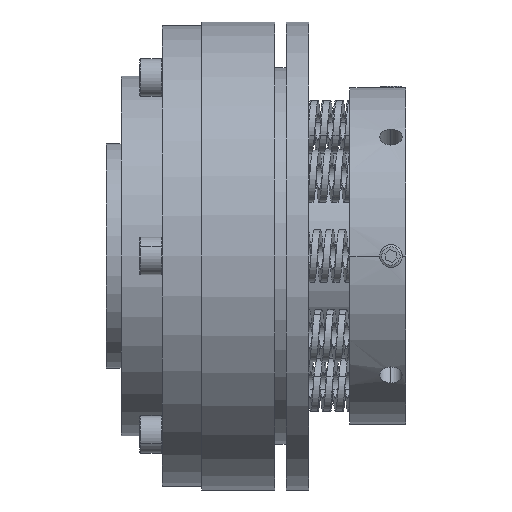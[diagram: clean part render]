
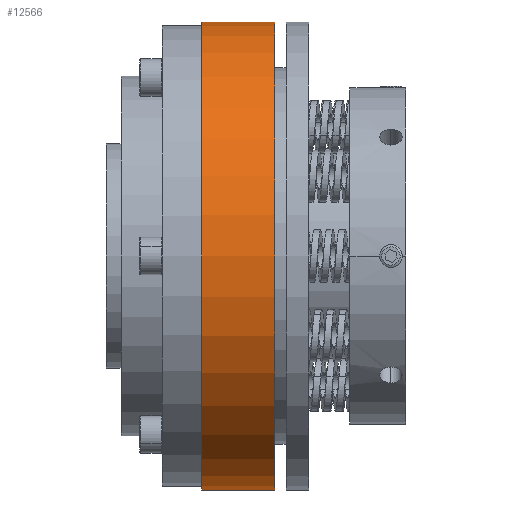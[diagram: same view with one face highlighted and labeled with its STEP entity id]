
A CAD part, front view. The second image highlights one B-rep face of the part: STEP entity #12566.
In plain terms, the highlighted cylindrical face has radius 62.5 mm (diameter 125 mm), a partial arc.
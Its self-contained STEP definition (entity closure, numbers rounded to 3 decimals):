
#3251 = DIRECTION ( 'NONE',  ( -1., 0., 0. ) ) ;
#9861 = LINE ( 'NONE', #53550, #29157 ) ;
#9894 = EDGE_LOOP ( 'NONE', ( #17232, #48754, #23257, #51134 ) ) ;
#11611 = EDGE_CURVE ( 'NONE', #52859, #42565, #32685, .T. ) ;
#12544 = CARTESIAN_POINT ( 'NONE',  ( 45., 0., 62.5 ) ) ;
#12566 = ADVANCED_FACE ( 'NONE', ( #15930 ), #70880, .T. ) ;
#15930 = FACE_OUTER_BOUND ( 'NONE', #9894, .T. ) ;
#17232 = ORIENTED_EDGE ( 'NONE', *, *, #40704, .F. ) ;
#19056 = CARTESIAN_POINT ( 'NONE',  ( 25.5, 0., 0. ) ) ;
#19481 = CARTESIAN_POINT ( 'NONE',  ( 0., 0., 0. ) ) ;
#22387 = CARTESIAN_POINT ( 'NONE',  ( 45., 0., -62.5 ) ) ;
#22598 = VERTEX_POINT ( 'NONE', #40700 ) ;
#23257 = ORIENTED_EDGE ( 'NONE', *, *, #53062, .T. ) ;
#24464 = DIRECTION ( 'NONE',  ( 0., 0., 1. ) ) ;
#25925 = DIRECTION ( 'NONE',  ( -1., 0., 0. ) ) ;
#29157 = VECTOR ( 'NONE', #29551, 1000. ) ;
#29551 = DIRECTION ( 'NONE',  ( -1., 0., 0. ) ) ;
#30706 = CIRCLE ( 'NONE', #56488, 62.5 ) ;
#32685 = CIRCLE ( 'NONE', #74171, 62.5 ) ;
#36126 = DIRECTION ( 'NONE',  ( -1., 0., 0. ) ) ;
#40276 = EDGE_CURVE ( 'NONE', #55491, #22598, #30706, .T. ) ;
#40700 = CARTESIAN_POINT ( 'NONE',  ( 25.5, 0., 62.5 ) ) ;
#40704 = EDGE_CURVE ( 'NONE', #52859, #55491, #63517, .T. ) ;
#42565 = VERTEX_POINT ( 'NONE', #12544 ) ;
#47985 = VECTOR ( 'NONE', #36126, 1000. ) ;
#48754 = ORIENTED_EDGE ( 'NONE', *, *, #11611, .T. ) ;
#51134 = ORIENTED_EDGE ( 'NONE', *, *, #40276, .F. ) ;
#52859 = VERTEX_POINT ( 'NONE', #22387 ) ;
#53062 = EDGE_CURVE ( 'NONE', #42565, #22598, #9861, .T. ) ;
#53550 = CARTESIAN_POINT ( 'NONE',  ( 0., 0., 62.5 ) ) ;
#55491 = VERTEX_POINT ( 'NONE', #65441 ) ;
#56488 = AXIS2_PLACEMENT_3D ( 'NONE', #19056, #59540, #24464 ) ;
#59540 = DIRECTION ( 'NONE',  ( -1., 0., 0. ) ) ;
#60484 = DIRECTION ( 'NONE',  ( 0., 0., 1. ) ) ;
#63517 = LINE ( 'NONE', #71209, #47985 ) ;
#65441 = CARTESIAN_POINT ( 'NONE',  ( 25.5, 0., -62.5 ) ) ;
#66860 = AXIS2_PLACEMENT_3D ( 'NONE', #19481, #25925, #60484 ) ;
#68339 = DIRECTION ( 'NONE',  ( 0., 0., 1. ) ) ;
#70880 = CYLINDRICAL_SURFACE ( 'NONE', #66860, 62.5 ) ;
#71209 = CARTESIAN_POINT ( 'NONE',  ( 0., 0., -62.5 ) ) ;
#74171 = AXIS2_PLACEMENT_3D ( 'NONE', #74216, #3251, #68339 ) ;
#74216 = CARTESIAN_POINT ( 'NONE',  ( 45., 0., 0. ) ) ;
